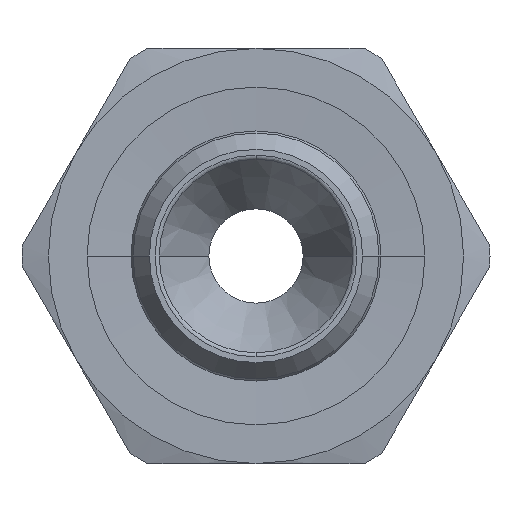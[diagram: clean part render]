
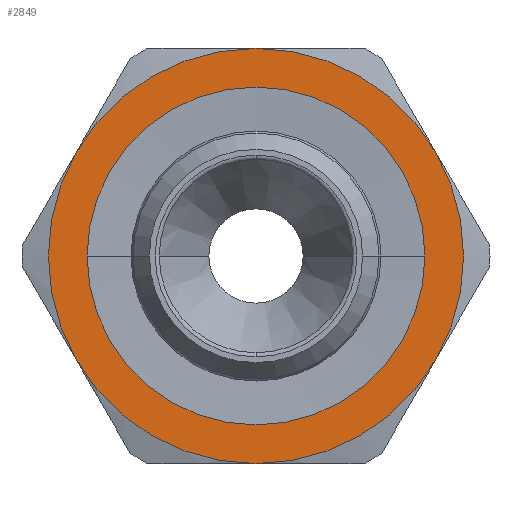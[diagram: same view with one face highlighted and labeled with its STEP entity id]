
A CAD part, left-side view. The second image highlights one B-rep face of the part: STEP entity #2849.
In plain terms, the highlighted planar face has unit normal (-1, 0, 0) as drawn and (0, 0, 1) by its records, which use the part's own axes.
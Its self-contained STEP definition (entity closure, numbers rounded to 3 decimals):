
#1176=CARTESIAN_POINT('',(0.,-8.95,3.));
#1177=VERTEX_POINT('',#1176);
#1193=CARTESIAN_POINT('',(0.,8.95,3.0));
#1194=VERTEX_POINT('',#1193);
#1201=CARTESIAN_POINT('',(0.,0.,3.0));
#1202=DIRECTION('',(0.0,0.0,-1.0));
#1203=DIRECTION('',(0.0,-1.0,0.0));
#1204=AXIS2_PLACEMENT_3D('',#1201,#1202,#1203);
#1205=CIRCLE('',#1204,8.95);
#1206=EDGE_CURVE('',#1177,#1194,#1205,.T.);
#1663=CARTESIAN_POINT('',(0.,0.,3.0));
#1664=DIRECTION('',(0.0,0.0,-1.0));
#1665=DIRECTION('',(0.0,-1.0,0.0));
#1666=AXIS2_PLACEMENT_3D('',#1663,#1664,#1665);
#1667=CIRCLE('',#1666,8.95);
#1668=EDGE_CURVE('',#1194,#1177,#1667,.T.);
#2222=CARTESIAN_POINT('',(5.5,-9.526,3.));
#2223=VERTEX_POINT('',#2222);
#2237=CARTESIAN_POINT('',(-5.5,-9.526,3.));
#2238=VERTEX_POINT('',#2237);
#2239=CARTESIAN_POINT('',(0.,0.0,3.0));
#2240=DIRECTION('',(0.0,0.0,1.0));
#2241=DIRECTION('',(1.0,0.0,0.0));
#2242=AXIS2_PLACEMENT_3D('',#2239,#2240,#2241);
#2243=CIRCLE('',#2242,11.);
#2244=EDGE_CURVE('',#2238,#2223,#2243,.T.);
#2322=CARTESIAN_POINT('',(-11.0,0.,3.));
#2323=VERTEX_POINT('',#2322);
#2324=CARTESIAN_POINT('',(0.,0.0,3.0));
#2325=DIRECTION('',(0.0,0.0,1.0));
#2326=DIRECTION('',(1.0,0.0,0.0));
#2327=AXIS2_PLACEMENT_3D('',#2324,#2325,#2326);
#2328=CIRCLE('',#2327,11.);
#2329=EDGE_CURVE('',#2323,#2238,#2328,.T.);
#2406=CARTESIAN_POINT('',(-5.5,9.526,3.));
#2407=VERTEX_POINT('',#2406);
#2408=CARTESIAN_POINT('',(0.,0.0,3.0));
#2409=DIRECTION('',(0.0,0.0,1.0));
#2410=DIRECTION('',(1.0,0.0,0.0));
#2411=AXIS2_PLACEMENT_3D('',#2408,#2409,#2410);
#2412=CIRCLE('',#2411,11.);
#2413=EDGE_CURVE('',#2407,#2323,#2412,.T.);
#2490=CARTESIAN_POINT('',(5.5,9.526,3.));
#2491=VERTEX_POINT('',#2490);
#2492=CARTESIAN_POINT('',(0.,0.0,3.0));
#2493=DIRECTION('',(0.0,0.0,1.0));
#2494=DIRECTION('',(1.0,0.0,0.0));
#2495=AXIS2_PLACEMENT_3D('',#2492,#2493,#2494);
#2496=CIRCLE('',#2495,11.);
#2497=EDGE_CURVE('',#2491,#2407,#2496,.T.);
#2575=CARTESIAN_POINT('',(11.0,0.0,3.));
#2576=VERTEX_POINT('',#2575);
#2577=CARTESIAN_POINT('',(0.,0.0,3.0));
#2578=DIRECTION('',(0.0,0.0,1.0));
#2579=DIRECTION('',(1.0,0.0,0.0));
#2580=AXIS2_PLACEMENT_3D('',#2577,#2578,#2579);
#2581=CIRCLE('',#2580,11.);
#2582=EDGE_CURVE('',#2576,#2491,#2581,.T.);
#2659=CARTESIAN_POINT('',(0.,0.0,3.0));
#2660=DIRECTION('',(0.0,0.0,1.0));
#2661=DIRECTION('',(1.0,0.0,0.0));
#2662=AXIS2_PLACEMENT_3D('',#2659,#2660,#2661);
#2663=CIRCLE('',#2662,11.);
#2664=EDGE_CURVE('',#2223,#2576,#2663,.T.);
#2832=CARTESIAN_POINT('',(0.,0.,3.0));
#2833=DIRECTION('',(0.0,0.0,1.0));
#2834=DIRECTION('',(1.0,0.0,0.0));
#2835=AXIS2_PLACEMENT_3D('',#2832,#2833,#2834);
#2836=PLANE('',#2835);
#2837=ORIENTED_EDGE('',*,*,#2664,.T.);
#2838=ORIENTED_EDGE('',*,*,#2582,.T.);
#2839=ORIENTED_EDGE('',*,*,#2497,.T.);
#2840=ORIENTED_EDGE('',*,*,#2413,.T.);
#2841=ORIENTED_EDGE('',*,*,#2329,.T.);
#2842=ORIENTED_EDGE('',*,*,#2244,.T.);
#2843=EDGE_LOOP('',(#2837,#2838,#2839,#2840,#2841,#2842));
#2844=FACE_OUTER_BOUND('',#2843,.T.);
#2845=ORIENTED_EDGE('',*,*,#1206,.T.);
#2846=ORIENTED_EDGE('',*,*,#1668,.T.);
#2847=EDGE_LOOP('',(#2845,#2846));
#2848=FACE_BOUND('',#2847,.T.);
#2849=ADVANCED_FACE('',(#2844,#2848),#2836,.T.);
